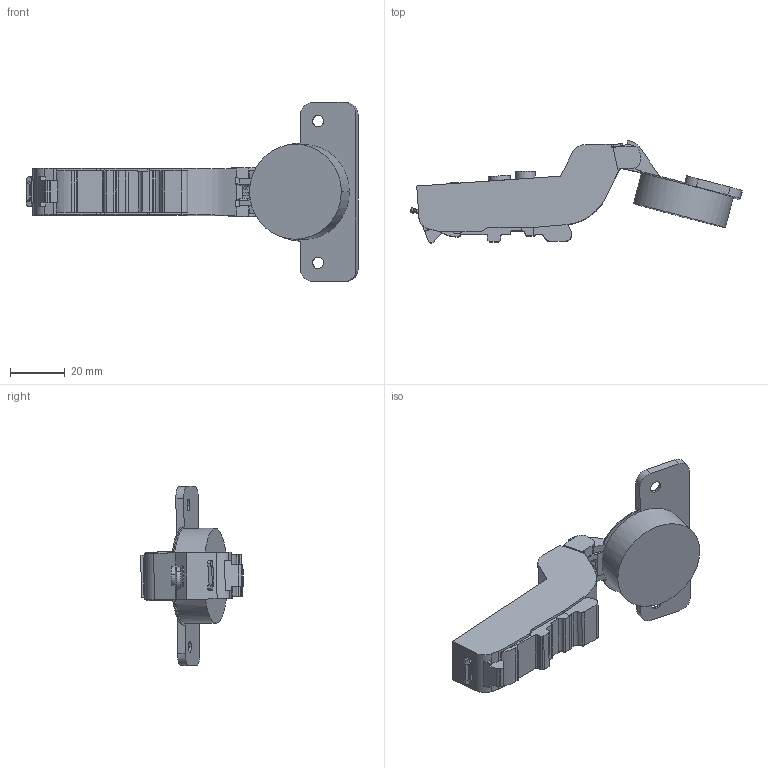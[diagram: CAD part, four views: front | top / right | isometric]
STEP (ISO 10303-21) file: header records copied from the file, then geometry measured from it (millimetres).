
FILE_DESCRIPTION (( 'STEP AP203' ), '1' );
FILE_NAME ('C81C877FAB DTC 3D OPEN.STEP', '2024-07-18T06:36:22', ( '微软用户' ), ( '微软中国' ), 'SwSTEP 2.0', 'SolidWorks 2021', '' );
FILE_SCHEMA (( 'CONFIG_CONTROL_DESIGN' ));
Length unit declared in the file: millimetre
Products named in the file (1): C81C877FAB DTC 3D OPEN
Bounding box: 121.69 x 37.5 x 65.65 mm (x, y, z)
Volume: 42894.4 mm3; surface area: 12924.4 mm2
Topology: 1 solids, 2 shells, 395 faces, 1119 edges, 737 vertices
Faces by surface type: plane 200, cylinder 149, torus 24, bspline 16, cone 6
Entity records: 13233 total; most frequent: CARTESIAN_POINT 2973, ORIENTED_EDGE 2238, DIRECTION 2080, EDGE_CURVE 1119, VERTEX_POINT 737, AXIS2_PLACEMENT_3D 726, LINE 628, VECTOR 628
